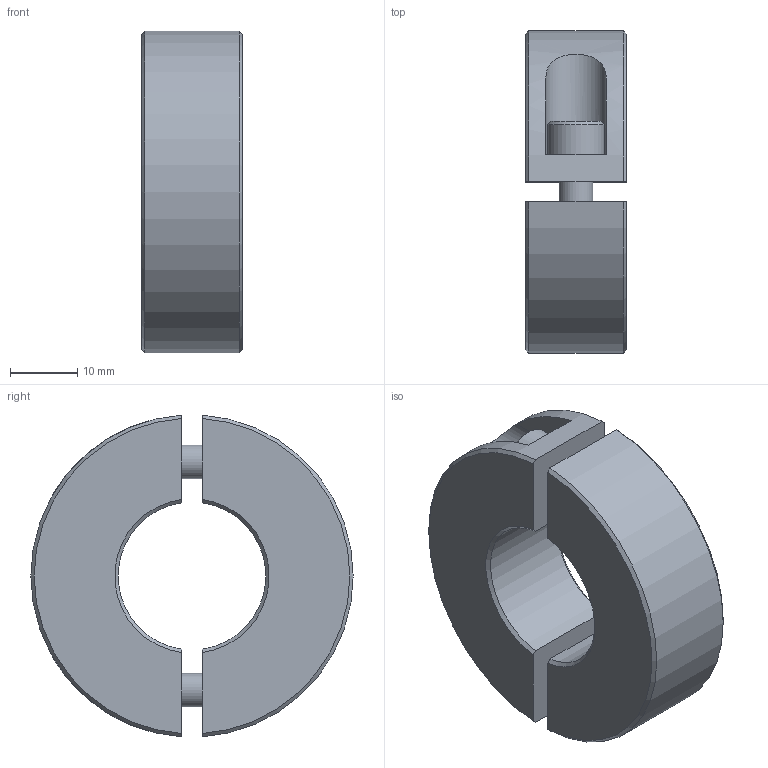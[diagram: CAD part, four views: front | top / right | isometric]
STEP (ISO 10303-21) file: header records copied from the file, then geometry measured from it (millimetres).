
FILE_DESCRIPTION(/* description */ ('STEP AP214'),/* implementation_level */ '2;1');
FILE_NAME(/* name */ 'Split Shaft Collar_ Aluminum GN 707.2-48-B22-AL',/* time_stamp */ '2024-06-10T15:26:45+02:00',/* author */ ('License CC BY-ND 4.0'),/* organization */ ('CADENAS'),/* preprocessor_version */ 'ST-DEVELOPER v19.3',/* originating_system */ 'PARTsolutions',/* authorisation */ ' ');
FILE_SCHEMA (('AUTOMOTIVE_DESIGN {1 0 10303 214 3 1 1}'));
Length unit declared in the file: millimetre
Products named in the file (1): Split Shaft Collar, Aluminum GN 707.2-48-B22-AL
Bounding box: 15 x 48 x 47.91 mm (x, y, z)
Volume: 19063.5 mm3; surface area: 7653.4 mm2
Topology: 1 solids, 3 shells, 74 faces, 172 edges, 110 vertices
Faces by surface type: plane 44, cone 16, cylinder 14
Full cylindrical faces by diameter (mm): 4.134 x2, 5 x2, 5.3 x2, 8.5 x2
Entity records: 2518 total; most frequent: CARTESIAN_POINT 393, DIRECTION 332, ORIENTED_EDGE 292, EDGE_CURVE 146, AXIS2_PLACEMENT_3D 129, VERTEX_POINT 104, FACE_BOUND 102, EDGE_LOOP 98
